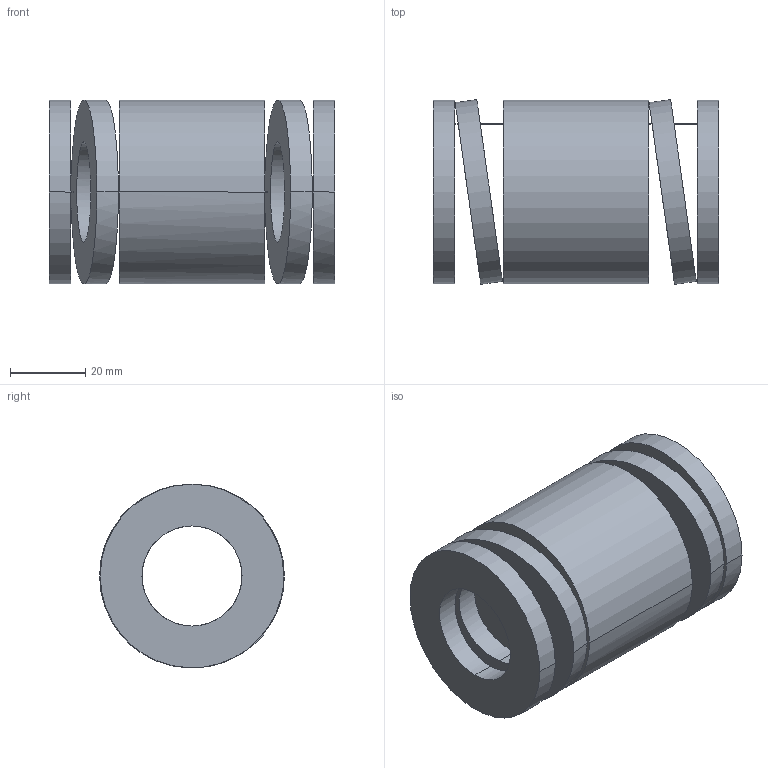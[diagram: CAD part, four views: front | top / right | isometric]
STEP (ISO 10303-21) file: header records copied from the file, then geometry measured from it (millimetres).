
FILE_DESCRIPTION(('CATIA V5 STEP Exchange'),'2;1');
FILE_NAME('C:\Users\Utente\Desktop\IO LAVORO\3D X SITO CF\X SITO\3D files 392B\392-B50-076.stp','2021-08-13T11:39:50+00:00',('none'),('none'),'CATIA Version 5 Release 20 GA (IN-10)','CATIA V5 STEP AP203','none');
FILE_SCHEMA(('CONFIG_CONTROL_DESIGN'));
Length unit declared in the file: millimetre
Products named in the file (1): 392-B50-076
Bounding box: 76 x 49.13 x 48.8 mm (x, y, z)
Volume: 81235.6 mm3; surface area: 27791.3 mm2
Topology: 1 solids, 1 shells, 38 faces, 92 edges, 64 vertices
Faces by surface type: cylinder 28, plane 10
Entity records: 1638 total; most frequent: CARTESIAN_POINT 761, ORIENTED_EDGE 184, DIRECTION 123, EDGE_CURVE 92, VERTEX_POINT 64, AXIS2_PLACEMENT_3D 58, EDGE_LOOP 56, B_SPLINE_CURVE_WITH_KNOTS 45
